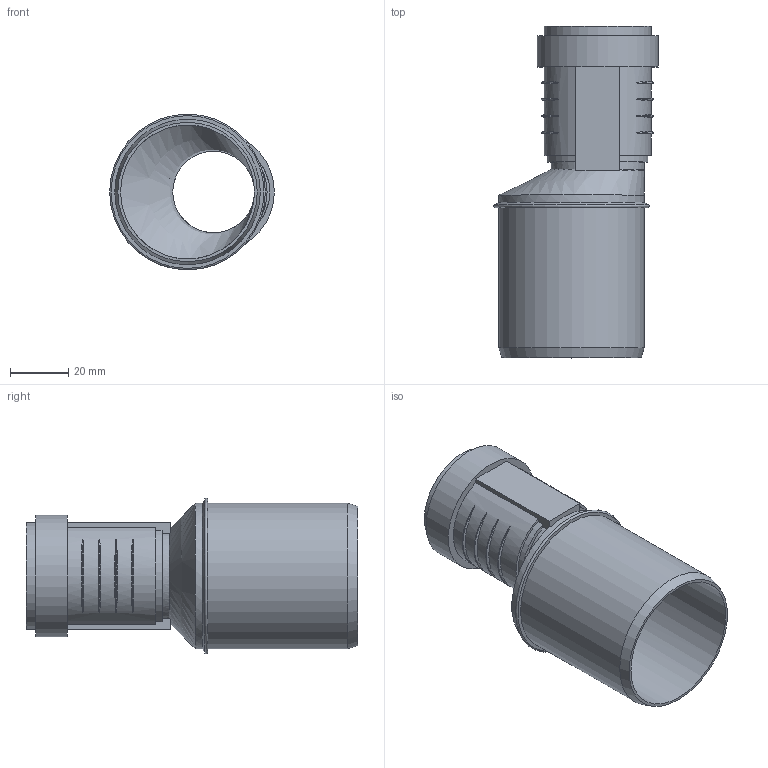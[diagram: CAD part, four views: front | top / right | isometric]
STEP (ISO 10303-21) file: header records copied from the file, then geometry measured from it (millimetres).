
FILE_DESCRIPTION(/* description */ (''),/* implementation_level */ '2;1');
FILE_NAME(/* name */ 'Z:\Geberit\Export\NewStep\390279.stp',/* time_stamp */ '2014-04-02T08:10:39+02:00',/* author */ ('ML'),/* organization */ (''),/* preprocessor_version */ 'ST-DEVELOPER v15.2',/* originating_system */ 'Autodesk Inventor 2014',/* authorisation */ '');
FILE_SCHEMA (('AUTOMOTIVE_DESIGN { 1 0 10303 214 3 1 1 }'));
Length unit declared in the file: millimetre
Products named in the file (3): 861618; 861632; 390279
Bounding box: 56.72 x 114.34 x 53.64 mm (x, y, z)
Volume: 33372.8 mm3; surface area: 35080.1 mm2
Topology: 2 solids, 2 shells, 68 faces, 162 edges, 112 vertices
Faces by surface type: torus 25, plane 20, cylinder 18, cone 3, bspline 2
Full cylindrical faces by diameter (mm): 28.15 x2, 32.15 x2, 32.8 x2, 36.8 x1, 37.8 x1, 41.8 x1, 46.15 x1, 50.15 x2
Entity records: 2662 total; most frequent: CARTESIAN_POINT 1053, DIRECTION 296, ORIENTED_EDGE 290, EDGE_CURVE 145, AXIS2_PLACEMENT_3D 130, VERTEX_POINT 111, EDGE_LOOP 102, STYLED_ITEM 68
